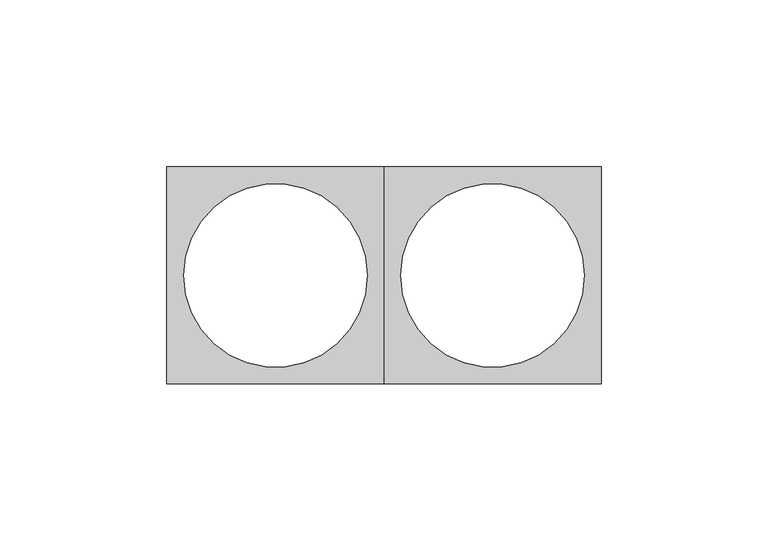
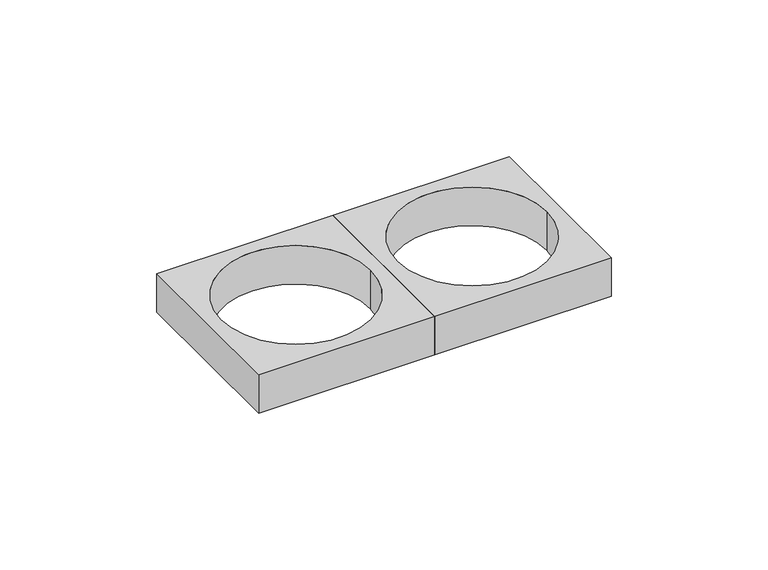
"""IFC4 building model written with IfcOpenShell, lengths in millimetres: duct fitting geometry, Mosaic Суппорт на 2 модуля : 65мм."""

from ifc_helpers import new_model, si_unit, point, frame_2d, origin, origin_with_axes, origin_2d, place, context, project, spatial, polyline, circle_curve, trimmed, segment, composite_curve, outline, extrude, source, transform, mapped, element, save


def duct_fitting_d90a27f4(model_context):
    return source(origin(), model_context, "Body", "SweptSolid", [
        extrude(outline(polyline([(97.5, 32.5), (97.5, -32.5), (32.5, -32.5), (32.5, 32.5), (97.5, 32.5)]), holes=[composite_curve([segment(trimmed(circle_curve(frame_2d((65.0, 0.0)), 27.5), [point((37.5, 0.0))], [point((92.5, 0.0))], True, "CARTESIAN"), True, "CONTINUOUS"), segment(trimmed(circle_curve(frame_2d((65.0, 0.0)), 27.5), [point((92.5, 0.0))], [point((37.5, 0.0))], True, "CARTESIAN"), True, "CONTINUOUS")], self_intersect=False)]), origin_with_axes(), (0.0, 0.0, 1.0), 15.0),
        extrude(outline(polyline([(32.5, 32.5), (32.5, -32.5), (-32.5, -32.5), (-32.5, 32.5), (32.5, 32.5)]), holes=[composite_curve([segment(trimmed(circle_curve(origin_2d(), 27.5), [point((-27.5, 0.0))], [point((27.5, 0.0))], True, "CARTESIAN"), True, "CONTINUOUS"), segment(trimmed(circle_curve(origin_2d(), 27.5), [point((27.5, 0.0))], [point((-27.5, 0.0))], True, "CARTESIAN"), True, "CONTINUOUS")], self_intersect=False)]), origin_with_axes(), (0.0, 0.0, 1.0), 15.0),
    ])


if __name__ == "__main__":
    model = new_model("IFC4")
    model_context = context("Model", 3, world=origin())
    ifc_project = project(units=[si_unit("LENGTHUNIT", "METRE", prefix="MILLI")], contexts=[model_context])
    site = spatial("IfcSite", under=ifc_project)
    building = spatial("IfcBuilding", under=site)
    placement = place(None, origin())
    duct_fitting_shape = duct_fitting_d90a27f4(model_context)
    element("IfcDuctFitting", 1, ObjectType="Mosaic Суппорт на 2 модуля : 65мм", at=placement, inside=building, context=model_context, shape_type="MappedRepresentation", body=[
        mapped(duct_fitting_shape, transform((0.0, 0.0, 0.0), x_axis=(1.0, 0.0, 0.0), y_axis=(0.0, 1.0, 0.0), z_axis=(0.0, 0.0, 1.0))),
    ])
    save(model, "model.ifc")
